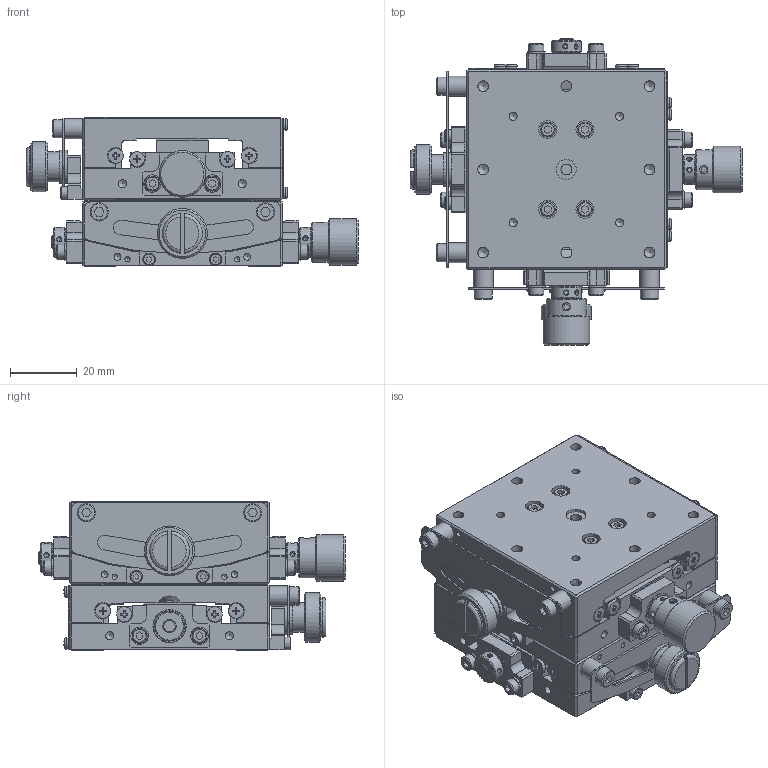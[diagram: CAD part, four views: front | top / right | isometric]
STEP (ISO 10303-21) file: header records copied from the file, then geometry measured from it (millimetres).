
FILE_DESCRIPTION((''),'2;1');
FILE_NAME('T:\Public\7_3次元データ\1図面ﾃﾞｰﾀ\2_OpticalHard\01_国内製品\1_Stags\GOHT\60\GOHT-60B60R\GOHT-60B60BR.stp','2009-06-10T15:26:59',('okegawa'),(''),'Autodesk Inventor 2008','Autodesk Inventor 2008','');
FILE_SCHEMA(('AUTOMOTIVE_DESIGN { 1 0 10303 214 1 1 1 1 }'));
Length unit declared in the file: millimetre
Products named in the file (4): GOHT60B60R-M02-06001-S18; GOHT60B60R-M02-06001-S15; GOHT60B60R-M02-06001-S17; GOHT60B60R-M02-06001-S14
Assembly tree (3 placements, depth 2):
  GOHT60B60R-M02-06001-S18
    GOHT60B60R-M02-06001-S15
    GOHT60B60R-M02-06001-S17
    GOHT60B60R-M02-06001-S14
Bounding box: 99.8 x 92.1 x 45 mm (x, y, z)
Volume: 145892.4 mm3; surface area: 71159.6 mm2
Topology: 3 solids, 124 shells, 2263 faces, 5484 edges, 3555 vertices
Faces by surface type: plane 1259, bspline 433, cylinder 361, cone 136, torus 50, sphere 24
Full cylindrical faces by diameter (mm): 1.5 x16, 2 x12, 2.459 x6, 2.5 x16, 3 x6, 3.8 x4, 4 x17, 4.2 x4, 4.5 x32, 5.2 x2, 5.5 x4, 5.7 x2, 5.8 x4, 5.92 x16, 6 x6, 6.9 x4, 7 x4, 8.08 x8, 8.484 x8, 9 x6, 10 x4, 12 x2, 14 x2, 15 x2
Entity records: 69704 total; most frequent: CARTESIAN_POINT 22437, DIRECTION 9510, ORIENTED_EDGE 8726, EDGE_CURVE 4363, AXIS2_PLACEMENT_3D 3572, EDGE_LOOP 3296, VERTEX_POINT 3167, VECTOR 2366
